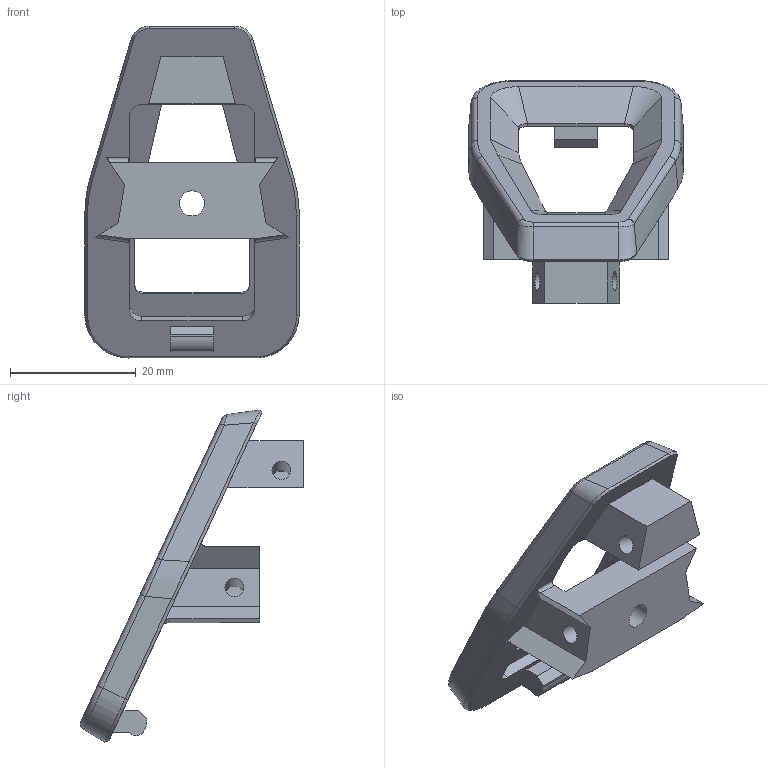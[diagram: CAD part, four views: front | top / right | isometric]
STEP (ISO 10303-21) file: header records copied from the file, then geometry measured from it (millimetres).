
FILE_DESCRIPTION(('HOOPS Exchange Step'),'2;1');
FILE_NAME('/private/var/mobile/Containers/Data/Application/B41F1AF9-3ED7-45D6-8FBD-F140B762F35E/tmp/export/temp_export','2026-08-07T20:43:13+19:00',('mobile'),('Shapr3D Limited'),'HOOPS Exchange 2026.3','Shapr3D','Authorized');
FILE_SCHEMA( ('AP242_MANAGED_MODEL_BASED_3D_ENGINEERING_MIM_LF {1 0 10303 442 1 1 4}') );
Length unit declared in the file: millimetre
Products named in the file (2): Display Face.step; root
Assembly tree (1 placements, depth 2):
  root
    Display Face.step
Bounding box: 34.16 x 35.56 x 52.89 mm (x, y, z)
Volume: 7606.5 mm3; surface area: 5630.4 mm2
Topology: 1 solids, 1 shells, 113 faces, 287 edges, 179 vertices
Faces by surface type: plane 56, bspline 38, cylinder 19
Full cylindrical faces by diameter (mm): 3 x4, 4 x1
Entity records: 7569 total; most frequent: CARTESIAN_POINT 4998, ORIENTED_EDGE 574, DIRECTION 406, EDGE_CURVE 287, VECTOR 180, LINE 180, VERTEX_POINT 179, EDGE_LOOP 128
